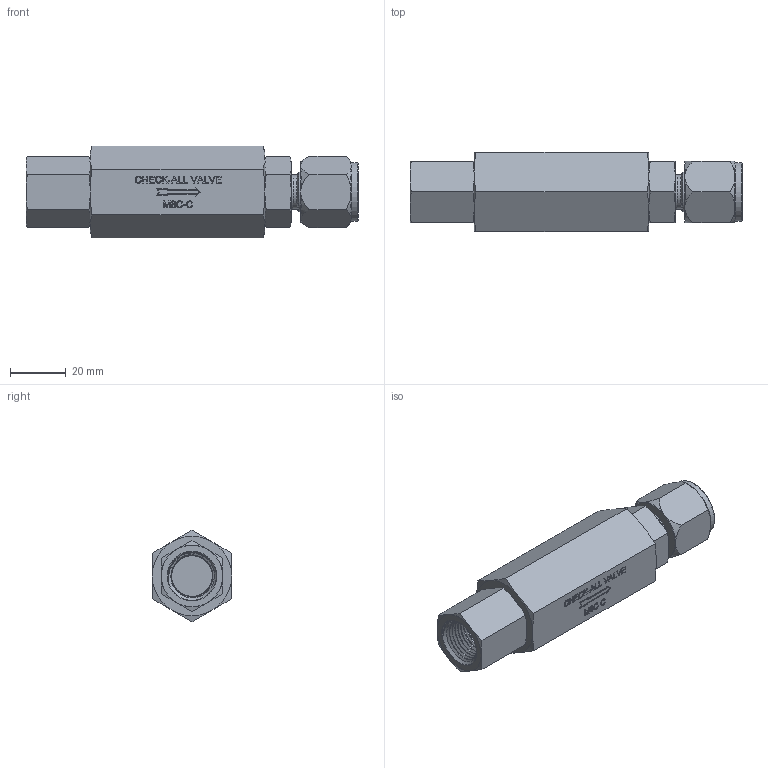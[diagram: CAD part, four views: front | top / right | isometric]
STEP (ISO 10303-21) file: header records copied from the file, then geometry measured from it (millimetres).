
FILE_DESCRIPTION( ( 'Unknown' ), '1' );
FILE_NAME( 'Y:/ENGR/3D Solid Edge Models/M(1-8)/M6/stp/M6C-C.stp', 'Unknown', ( 'Unknown' ), ( 'Unknown' ), 'PSStep 16.0.42', 'Unknown', ' ' );
FILE_SCHEMA( ( 'AUTOMOTIVE_DESIGN { 1 0 10303 214 1 1 1 1 }' ) );
Length unit declared in the file: millimetre
Products named in the file (1): 5022c (3D Model)
Bounding box: 119.53 x 28.57 x 33 mm (x, y, z)
Volume: 63045.3 mm3; surface area: 14145.6 mm2
Topology: 1 solids, 1 shells, 405 faces, 1040 edges, 644 vertices
Faces by surface type: extrusion 143, plane 81, cylinder 58, cone 54, torus 42, bspline 27
Full cylindrical faces by diameter (mm): 9.804 x1, 12.243 x1, 14.287 x1, 14.684 x5, 21.209 x1
Entity records: 20800 total; most frequent: CARTESIAN_POINT 8932, ORIENTED_EDGE 1954, DIRECTION 1375, EDGE_CURVE 977, VERTEX_POINT 626, B_SPLINE_CURVE_WITH_KNOTS 552, VECTOR 507, EDGE_LOOP 445
